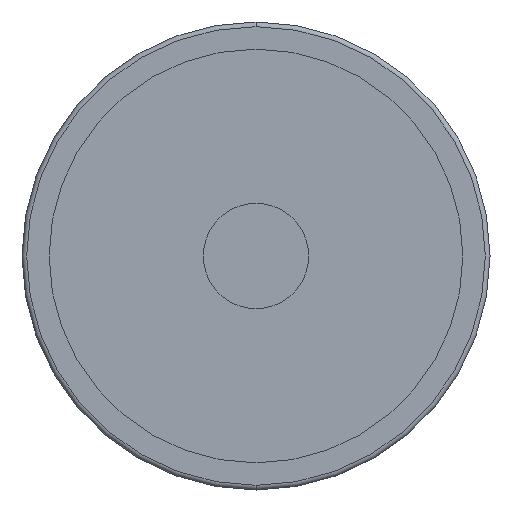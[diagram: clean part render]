
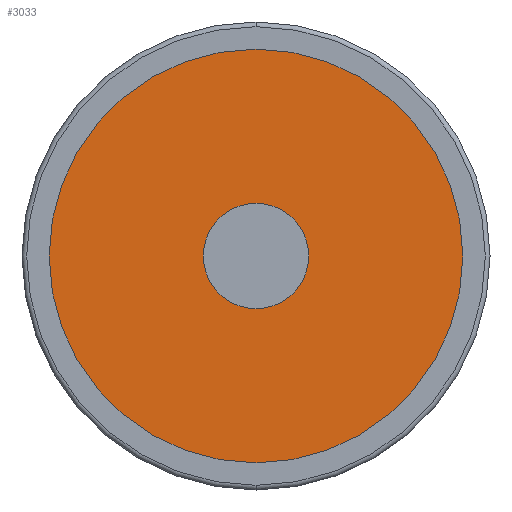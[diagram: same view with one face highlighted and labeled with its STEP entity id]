
A CAD part, front view. The second image highlights one B-rep face of the part: STEP entity #3033.
In plain terms, the highlighted planar face has unit normal (0, -1, 0).
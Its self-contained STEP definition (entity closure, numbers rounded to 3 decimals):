
#130 = CARTESIAN_POINT ( 'NONE',  ( 44.3, 4.5, 0. ) ) ;
#174 = AXIS2_PLACEMENT_3D ( 'NONE', #1120, #1610, #1552 ) ;
#313 = VERTEX_POINT ( 'NONE', #3111 ) ;
#433 = CARTESIAN_POINT ( 'NONE',  ( 0., 4.5, 0. ) ) ;
#910 = DIRECTION ( 'NONE',  ( 1., 0., 0. ) ) ;
#980 = DIRECTION ( 'NONE',  ( 1., 0., 0. ) ) ;
#1025 = CARTESIAN_POINT ( 'NONE',  ( 0., 4.5, 0. ) ) ;
#1045 = VERTEX_POINT ( 'NONE', #3179 ) ;
#1120 = CARTESIAN_POINT ( 'NONE',  ( 0., 4.5, 0. ) ) ;
#1148 = ORIENTED_EDGE ( 'NONE', *, *, #1565, .T. ) ;
#1153 = DIRECTION ( 'NONE',  ( 0., -1., 0. ) ) ;
#1156 = CIRCLE ( 'NONE', #1305, 44.3 ) ;
#1305 = AXIS2_PLACEMENT_3D ( 'NONE', #3162, #1153, #3176 ) ;
#1348 = AXIS2_PLACEMENT_3D ( 'NONE', #1025, #2052, #3043 ) ;
#1361 = CIRCLE ( 'NONE', #174, 44.3 ) ;
#1491 = EDGE_CURVE ( 'NONE', #2423, #313, #1361, .T. ) ;
#1496 = ORIENTED_EDGE ( 'NONE', *, *, #2446, .F. ) ;
#1552 = DIRECTION ( 'NONE',  ( 1., 0., 0. ) ) ;
#1564 = CIRCLE ( 'NONE', #1348, 10.25 ) ;
#1565 = EDGE_CURVE ( 'NONE', #313, #2423, #1156, .T. ) ;
#1610 = DIRECTION ( 'NONE',  ( 0., -1., 0. ) ) ;
#1962 = PLANE ( 'NONE',  #2228 ) ;
#2052 = DIRECTION ( 'NONE',  ( 0., -1., 0. ) ) ;
#2228 = AXIS2_PLACEMENT_3D ( 'NONE', #3171, #2983, #910 ) ;
#2337 = ORIENTED_EDGE ( 'NONE', *, *, #1491, .T. ) ;
#2423 = VERTEX_POINT ( 'NONE', #130 ) ;
#2446 = EDGE_CURVE ( 'NONE', #2508, #1045, #1564, .T. ) ;
#2468 = FACE_OUTER_BOUND ( 'NONE', #2738, .T. ) ;
#2508 = VERTEX_POINT ( 'NONE', #2780 ) ;
#2649 = ORIENTED_EDGE ( 'NONE', *, *, #3063, .F. ) ;
#2705 = FACE_BOUND ( 'NONE', #2726, .T. ) ;
#2726 = EDGE_LOOP ( 'NONE', ( #1496, #2649 ) ) ;
#2738 = EDGE_LOOP ( 'NONE', ( #1148, #2337 ) ) ;
#2780 = CARTESIAN_POINT ( 'NONE',  ( 10.25, 4.5, 0. ) ) ;
#2852 = AXIS2_PLACEMENT_3D ( 'NONE', #433, #2965, #980 ) ;
#2965 = DIRECTION ( 'NONE',  ( 0., -1., 0. ) ) ;
#2983 = DIRECTION ( 'NONE',  ( 0., -1., 0. ) ) ;
#3033 = ADVANCED_FACE ( 'NONE', ( #2468, #2705 ), #1962, .T. ) ;
#3043 = DIRECTION ( 'NONE',  ( 1., 0., 0. ) ) ;
#3063 = EDGE_CURVE ( 'NONE', #1045, #2508, #3222, .T. ) ;
#3111 = CARTESIAN_POINT ( 'NONE',  ( -44.3, 4.5, 0. ) ) ;
#3162 = CARTESIAN_POINT ( 'NONE',  ( 0., 4.5, 0. ) ) ;
#3171 = CARTESIAN_POINT ( 'NONE',  ( -44.3, 4.5, 0. ) ) ;
#3176 = DIRECTION ( 'NONE',  ( 1., 0., 0. ) ) ;
#3179 = CARTESIAN_POINT ( 'NONE',  ( -10.25, 4.5, 0. ) ) ;
#3222 = CIRCLE ( 'NONE', #2852, 10.25 ) ;
